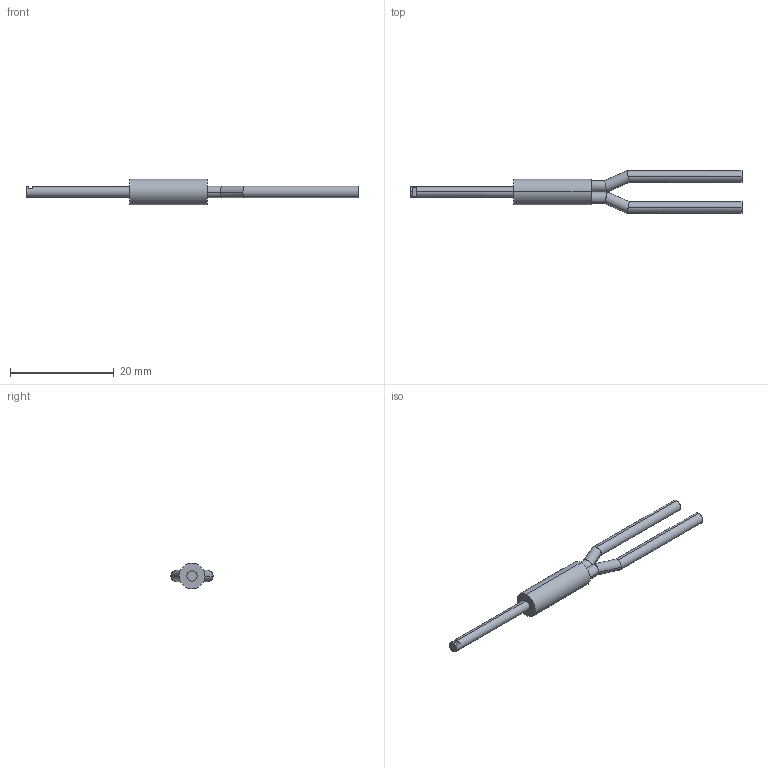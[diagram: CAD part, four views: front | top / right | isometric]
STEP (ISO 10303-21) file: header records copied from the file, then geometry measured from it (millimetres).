
FILE_DESCRIPTION (( 'STEP AP203' ), '1' );
FILE_NAME ('FD-SFM2SV2.STEP', '2005-09-04T10:18:56', ( '川島良英' ), ( ' ' ), 'SwSTEP 2.0', 'SolidWorks 2004251', '' );
FILE_SCHEMA (( 'CONFIG_CONTROL_DESIGN' ));
Length unit declared in the file: millimetre
Products named in the file (1): FD-SFM2SV2
Bounding box: 64.15 x 8.19 x 5 mm (x, y, z)
Volume: 581.6 mm3; surface area: 809.6 mm2
Topology: 1 solids, 1 shells, 24 faces, 53 edges, 34 vertices
Faces by surface type: cylinder 16, plane 8
Entity records: 742 total; most frequent: CARTESIAN_POINT 148, DIRECTION 111, ORIENTED_EDGE 106, EDGE_CURVE 53, AXIS2_PLACEMENT_3D 45, VERTEX_POINT 34, EDGE_LOOP 27, ADVANCED_FACE 24
